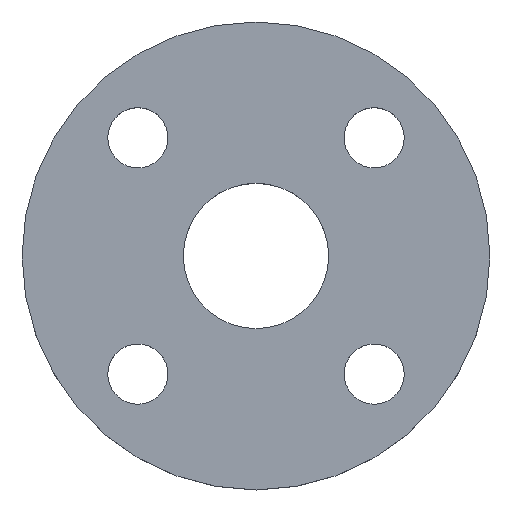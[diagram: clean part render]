
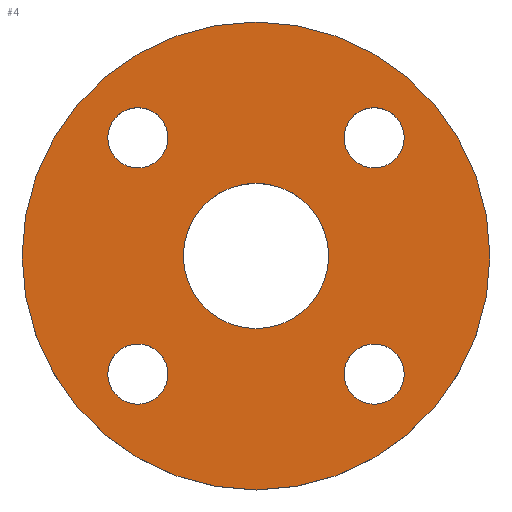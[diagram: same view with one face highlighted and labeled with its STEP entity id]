
A CAD part, top view. The second image highlights one B-rep face of the part: STEP entity #4.
In plain terms, the highlighted planar face has unit normal (0, 0, 1).
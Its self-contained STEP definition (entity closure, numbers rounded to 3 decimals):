
#4 = ADVANCED_FACE ( 'NONE', ( #340, #492, #136, #292, #454, #100 ), #250, .T. ) ;
#5 = DIRECTION ( 'NONE',  ( -1., 0., 0. ) ) ;
#13 = DIRECTION ( 'NONE',  ( 0., 0., -1. ) ) ;
#27 = DIRECTION ( 'NONE',  ( -1., 0., 0. ) ) ;
#33 = VERTEX_POINT ( 'NONE', #495 ) ;
#34 = ORIENTED_EDGE ( 'NONE', *, *, #222, .T. ) ;
#36 = VERTEX_POINT ( 'NONE', #140 ) ;
#42 = DIRECTION ( 'NONE',  ( -1., 0., 0. ) ) ;
#45 = CIRCLE ( 'NONE', #337, 9. ) ;
#52 = CARTESIAN_POINT ( 'NONE',  ( 70., 0., 0. ) ) ;
#54 = CARTESIAN_POINT ( 'NONE',  ( 26.355, -35.355, 0. ) ) ;
#58 = AXIS2_PLACEMENT_3D ( 'NONE', #193, #362, #5 ) ;
#60 = DIRECTION ( 'NONE',  ( 0., 0., 1. ) ) ;
#62 = DIRECTION ( 'NONE',  ( 1., 0., 0. ) ) ;
#63 = DIRECTION ( 'NONE',  ( -1., 0., 0. ) ) ;
#65 = DIRECTION ( 'NONE',  ( -1., 0., 0. ) ) ;
#66 = EDGE_LOOP ( 'NONE', ( #81, #101 ) ) ;
#74 = ORIENTED_EDGE ( 'NONE', *, *, #192, .T. ) ;
#80 = CIRCLE ( 'NONE', #367, 9. ) ;
#81 = ORIENTED_EDGE ( 'NONE', *, *, #254, .T. ) ;
#93 = DIRECTION ( 'NONE',  ( 1., 0., 0. ) ) ;
#95 = CARTESIAN_POINT ( 'NONE',  ( -35.355, 35.355, 0. ) ) ;
#99 = EDGE_CURVE ( 'NONE', #295, #314, #45, .T. ) ;
#100 = FACE_OUTER_BOUND ( 'NONE', #66, .T. ) ;
#101 = ORIENTED_EDGE ( 'NONE', *, *, #368, .T. ) ;
#109 = CARTESIAN_POINT ( 'NONE',  ( -26.355, 35.355, 0. ) ) ;
#114 = CARTESIAN_POINT ( 'NONE',  ( 26.355, 35.355, 0. ) ) ;
#115 = EDGE_LOOP ( 'NONE', ( #507, #476 ) ) ;
#116 = VERTEX_POINT ( 'NONE', #499 ) ;
#128 = AXIS2_PLACEMENT_3D ( 'NONE', #159, #321, #482 ) ;
#133 = CARTESIAN_POINT ( 'NONE',  ( 35.355, 35.355, 0. ) ) ;
#136 = FACE_BOUND ( 'NONE', #356, .T. ) ;
#140 = CARTESIAN_POINT ( 'NONE',  ( -70., 0., 0. ) ) ;
#144 = CIRCLE ( 'NONE', #437, 9. ) ;
#149 = CARTESIAN_POINT ( 'NONE',  ( 35.355, -35.355, 0. ) ) ;
#158 = CIRCLE ( 'NONE', #219, 9. ) ;
#159 = CARTESIAN_POINT ( 'NONE',  ( 35.355, 35.355, 0. ) ) ;
#161 = EDGE_LOOP ( 'NONE', ( #427, #34 ) ) ;
#164 = AXIS2_PLACEMENT_3D ( 'NONE', #285, #447, #93 ) ;
#167 = DIRECTION ( 'NONE',  ( -1., 0., 0. ) ) ;
#180 = AXIS2_PLACEMENT_3D ( 'NONE', #258, #420, #65 ) ;
#192 = EDGE_CURVE ( 'NONE', #432, #472, #208, .T. ) ;
#193 = CARTESIAN_POINT ( 'NONE',  ( -35.355, -35.355, 0. ) ) ;
#197 = CIRCLE ( 'NONE', #273, 70. ) ;
#208 = CIRCLE ( 'NONE', #510, 9. ) ;
#210 = EDGE_CURVE ( 'NONE', #433, #272, #280, .T. ) ;
#212 = DIRECTION ( 'NONE',  ( 1., 0., 0. ) ) ;
#217 = CARTESIAN_POINT ( 'NONE',  ( 0., 0., 0. ) ) ;
#219 = AXIS2_PLACEMENT_3D ( 'NONE', #149, #307, #469 ) ;
#222 = EDGE_CURVE ( 'NONE', #502, #116, #359, .T. ) ;
#232 = CARTESIAN_POINT ( 'NONE',  ( -35.355, 35.355, 0. ) ) ;
#237 = AXIS2_PLACEMENT_3D ( 'NONE', #217, #384, #27 ) ;
#244 = EDGE_CURVE ( 'NONE', #272, #433, #252, .T. ) ;
#246 = DIRECTION ( 'NONE',  ( 0., 0., -1. ) ) ;
#250 = PLANE ( 'NONE',  #366 ) ;
#252 = CIRCLE ( 'NONE', #325, 9. ) ;
#254 = EDGE_CURVE ( 'NONE', #274, #36, #397, .T. ) ;
#255 = CARTESIAN_POINT ( 'NONE',  ( 0., 0., 0. ) ) ;
#256 = CARTESIAN_POINT ( 'NONE',  ( 35.355, -35.355, 0. ) ) ;
#258 = CARTESIAN_POINT ( 'NONE',  ( 0., 0., 0. ) ) ;
#261 = CARTESIAN_POINT ( 'NONE',  ( -44.355, -35.355, 0. ) ) ;
#272 = VERTEX_POINT ( 'NONE', #407 ) ;
#273 = AXIS2_PLACEMENT_3D ( 'NONE', #255, #417, #62 ) ;
#274 = VERTEX_POINT ( 'NONE', #52 ) ;
#277 = EDGE_LOOP ( 'NONE', ( #345, #481 ) ) ;
#280 = CIRCLE ( 'NONE', #58, 9. ) ;
#285 = CARTESIAN_POINT ( 'NONE',  ( 0., 0., 0. ) ) ;
#289 = DIRECTION ( 'NONE',  ( 0., 0., -1. ) ) ;
#292 = FACE_BOUND ( 'NONE', #161, .T. ) ;
#293 = EDGE_CURVE ( 'NONE', #116, #502, #80, .T. ) ;
#294 = EDGE_CURVE ( 'NONE', #472, #432, #144, .T. ) ;
#295 = VERTEX_POINT ( 'NONE', #54 ) ;
#307 = DIRECTION ( 'NONE',  ( 0., 0., -1. ) ) ;
#314 = VERTEX_POINT ( 'NONE', #339 ) ;
#321 = DIRECTION ( 'NONE',  ( 0., 0., -1. ) ) ;
#325 = AXIS2_PLACEMENT_3D ( 'NONE', #371, #13, #167 ) ;
#337 = AXIS2_PLACEMENT_3D ( 'NONE', #256, #418, #63 ) ;
#339 = CARTESIAN_POINT ( 'NONE',  ( 44.355, -35.355, 0. ) ) ;
#340 = FACE_BOUND ( 'NONE', #115, .T. ) ;
#345 = ORIENTED_EDGE ( 'NONE', *, *, #412, .T. ) ;
#356 = EDGE_LOOP ( 'NONE', ( #74, #385 ) ) ;
#359 = CIRCLE ( 'NONE', #128, 9. ) ;
#362 = DIRECTION ( 'NONE',  ( 0., 0., -1. ) ) ;
#366 = AXIS2_PLACEMENT_3D ( 'NONE', #413, #60, #212 ) ;
#367 = AXIS2_PLACEMENT_3D ( 'NONE', #133, #289, #449 ) ;
#368 = EDGE_CURVE ( 'NONE', #36, #274, #197, .T. ) ;
#371 = CARTESIAN_POINT ( 'NONE',  ( -35.355, -35.355, 0. ) ) ;
#384 = DIRECTION ( 'NONE',  ( 0., 0., -1. ) ) ;
#385 = ORIENTED_EDGE ( 'NONE', *, *, #294, .T. ) ;
#397 = CIRCLE ( 'NONE', #164, 70. ) ;
#399 = DIRECTION ( 'NONE',  ( 0., 0., -1. ) ) ;
#403 = EDGE_CURVE ( 'NONE', #441, #33, #404, .T. ) ;
#404 = CIRCLE ( 'NONE', #180, 21.75 ) ;
#407 = CARTESIAN_POINT ( 'NONE',  ( -26.355, -35.355, 0. ) ) ;
#409 = DIRECTION ( 'NONE',  ( -1., 0., 0. ) ) ;
#412 = EDGE_CURVE ( 'NONE', #33, #441, #477, .T. ) ;
#413 = CARTESIAN_POINT ( 'NONE',  ( 0., 0., 0. ) ) ;
#417 = DIRECTION ( 'NONE',  ( 0., 0., 1. ) ) ;
#418 = DIRECTION ( 'NONE',  ( 0., 0., -1. ) ) ;
#420 = DIRECTION ( 'NONE',  ( 0., 0., -1. ) ) ;
#425 = CARTESIAN_POINT ( 'NONE',  ( 21.75, 0., 0. ) ) ;
#427 = ORIENTED_EDGE ( 'NONE', *, *, #293, .T. ) ;
#432 = VERTEX_POINT ( 'NONE', #109 ) ;
#433 = VERTEX_POINT ( 'NONE', #261 ) ;
#437 = AXIS2_PLACEMENT_3D ( 'NONE', #95, #246, #409 ) ;
#438 = EDGE_LOOP ( 'NONE', ( #440, #471 ) ) ;
#440 = ORIENTED_EDGE ( 'NONE', *, *, #244, .T. ) ;
#441 = VERTEX_POINT ( 'NONE', #425 ) ;
#447 = DIRECTION ( 'NONE',  ( 0., 0., 1. ) ) ;
#449 = DIRECTION ( 'NONE',  ( -1., 0., 0. ) ) ;
#454 = FACE_BOUND ( 'NONE', #277, .T. ) ;
#469 = DIRECTION ( 'NONE',  ( -1., 0., 0. ) ) ;
#471 = ORIENTED_EDGE ( 'NONE', *, *, #210, .T. ) ;
#472 = VERTEX_POINT ( 'NONE', #504 ) ;
#476 = ORIENTED_EDGE ( 'NONE', *, *, #99, .T. ) ;
#477 = CIRCLE ( 'NONE', #237, 21.75 ) ;
#481 = ORIENTED_EDGE ( 'NONE', *, *, #403, .T. ) ;
#482 = DIRECTION ( 'NONE',  ( -1., 0., 0. ) ) ;
#492 = FACE_BOUND ( 'NONE', #438, .T. ) ;
#495 = CARTESIAN_POINT ( 'NONE',  ( -21.75, 0., 0. ) ) ;
#498 = EDGE_CURVE ( 'NONE', #314, #295, #158, .T. ) ;
#499 = CARTESIAN_POINT ( 'NONE',  ( 44.355, 35.355, 0. ) ) ;
#502 = VERTEX_POINT ( 'NONE', #114 ) ;
#504 = CARTESIAN_POINT ( 'NONE',  ( -44.355, 35.355, 0. ) ) ;
#507 = ORIENTED_EDGE ( 'NONE', *, *, #498, .T. ) ;
#510 = AXIS2_PLACEMENT_3D ( 'NONE', #232, #399, #42 ) ;
